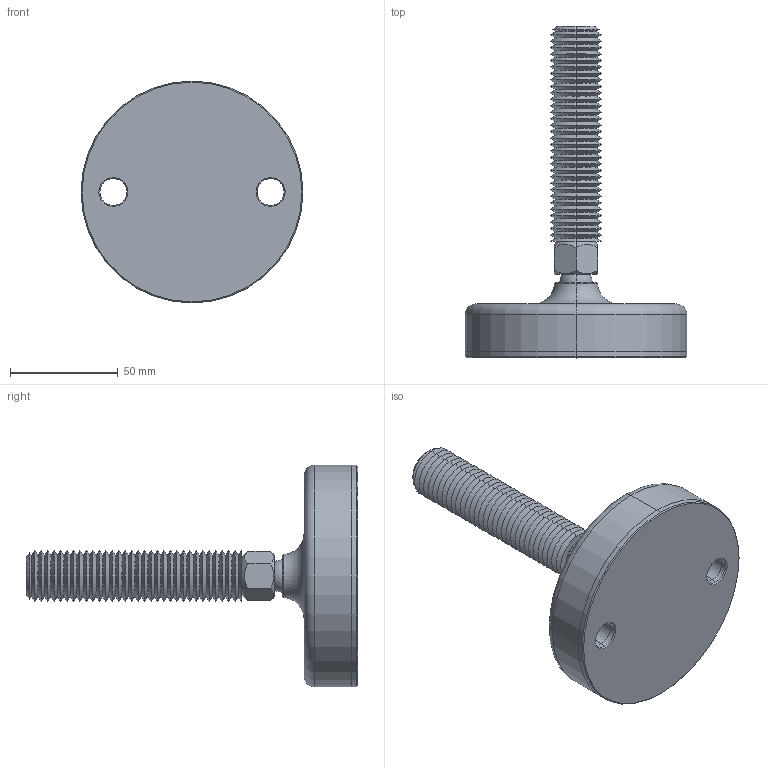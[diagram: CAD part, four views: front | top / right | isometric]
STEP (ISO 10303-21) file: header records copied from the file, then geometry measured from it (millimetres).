
FILE_DESCRIPTION (( 'STEP AP203' ), '1' );
FILE_NAME ('34724.W2401.step', '2019-11-28T22:20:05', ( '' ), ( '' ), 'SwSTEP 2.0', 'SolidWorks 2017', '' );
FILE_SCHEMA (( 'CONFIG_CONTROL_DESIGN' ));
Length unit declared in the file: millimetre
Products named in the file (4): 34724.W2401; Part2_34724.W2401; Part1_34724.W2401; Part3_34724.W2401
Assembly tree (3 placements, depth 2):
  34724.W2401
    Part1_34724.W2401
    Part2_34724.W2401
    Part3_34724.W2401
Bounding box: 103 x 154 x 103 mm (x, y, z)
Volume: 246971.1 mm3; surface area: 57740.3 mm2
Topology: 3 solids, 3 shells, 184 faces, 383 edges, 205 vertices
Faces by surface type: cone 150, plane 14, cylinder 12, sphere 4, torus 4
Entity records: 5266 total; most frequent: DIRECTION 936, CARTESIAN_POINT 916, ORIENTED_EDGE 748, AXIS2_PLACEMENT_3D 384, EDGE_CURVE 374, VERTEX_POINT 200, EDGE_LOOP 196, CIRCLE 194
